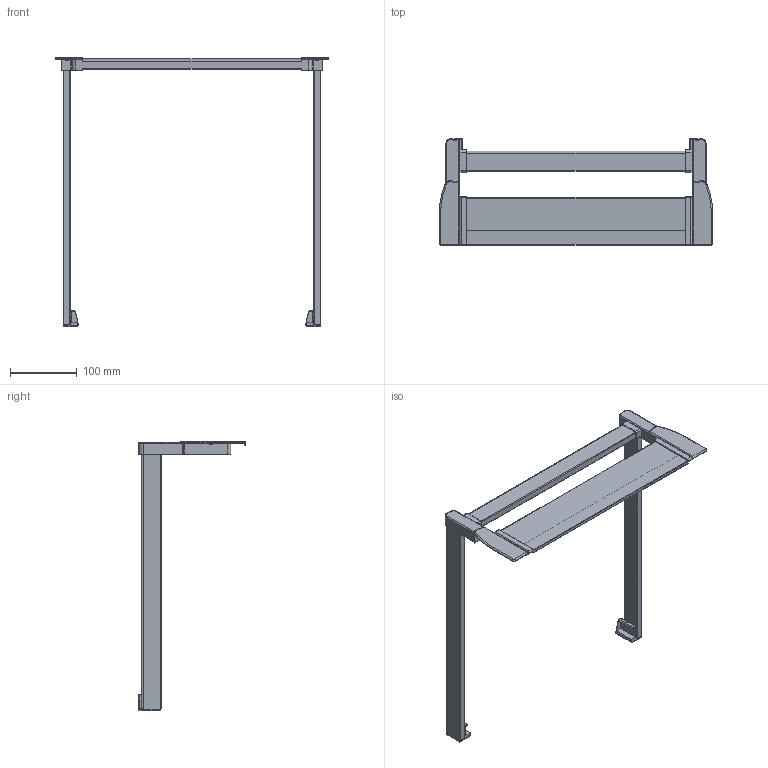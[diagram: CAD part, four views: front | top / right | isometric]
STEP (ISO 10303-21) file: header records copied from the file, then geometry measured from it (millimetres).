
FILE_DESCRIPTION (( 'STEP AP214' ), '1' );
FILE_NAME ('1_P620_NL 400_KAB 450_16er KS_.step', '2009-09-16T06:29:28', ( 'Waldinger Reinhard' ), ( 'Grass GmbH' ), 'SwSTEP 2.0', 'SolidWorks 2009', '' );
FILE_SCHEMA (( 'AUTOMOTIVE_DESIGN' ));
Length unit declared in the file: millimetre
Products named in the file (1): 1_P620_NL 400_KAB 450_16er KS_
Bounding box: 409.6 x 160.5 x 402.8 mm (x, y, z)
Volume: 748863.7 mm3; surface area: 180184.6 mm2
Topology: 1 solids, 1 shells, 220 faces, 578 edges, 364 vertices
Faces by surface type: plane 97, cylinder 91, torus 28, bspline 2, sphere 2
Entity records: 7004 total; most frequent: CARTESIAN_POINT 1345, DIRECTION 1198, ORIENTED_EDGE 1152, EDGE_CURVE 576, AXIS2_PLACEMENT_3D 433, VERTEX_POINT 364, VECTOR 332, LINE 332
